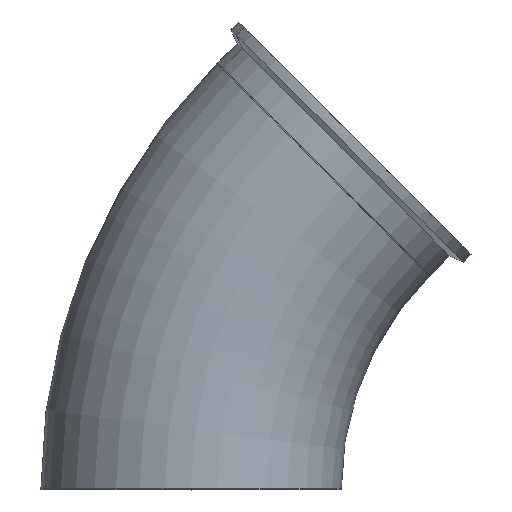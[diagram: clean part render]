
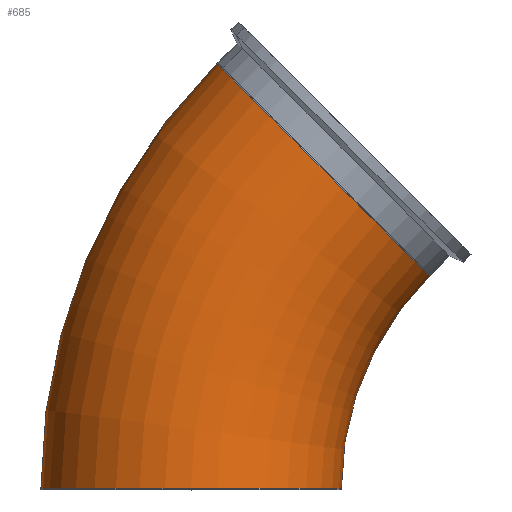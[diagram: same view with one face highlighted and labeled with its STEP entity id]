
A CAD part, top view. The second image highlights one B-rep face of the part: STEP entity #685.
In plain terms, the highlighted toroidal (fillet/blend) face has major radius 228.6 mm and minor radius 76.2 mm.
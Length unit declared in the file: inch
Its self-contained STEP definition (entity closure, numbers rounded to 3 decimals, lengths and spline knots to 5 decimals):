
#19 = AXIS2_PLACEMENT_3D ( 'NONE', #933, #511, #66 ) ;
#21 = ORIENTED_EDGE ( 'NONE', *, *, #670, .T. ) ;
#36 = AXIS2_PLACEMENT_3D ( 'NONE', #352, #867, #432 ) ;
#66 = DIRECTION ( 'NONE',  ( 0., 0., 1. ) ) ;
#84 = AXIS2_PLACEMENT_3D ( 'NONE', #762, #889, #532 ) ;
#88 = AXIS2_PLACEMENT_3D ( 'NONE', #299, #823, #378 ) ;
#96 = AXIS2_PLACEMENT_3D ( 'NONE', #294, #820, #376 ) ;
#129 = CARTESIAN_POINT ( 'NONE',  ( 7.88304, 6.40524, 8.13878 ) ) ;
#163 = AXIS2_PLACEMENT_3D ( 'NONE', #395, #906, #474 ) ;
#205 = EDGE_LOOP ( 'NONE', ( #338, #390, #21, #801, #939 ) ) ;
#231 = VERTEX_POINT ( 'NONE', #129 ) ;
#234 = CIRCLE ( 'NONE', #19, 3. ) ;
#294 = CARTESIAN_POINT ( 'NONE',  ( 12.12568, 2.1626, 8.13878 ) ) ;
#299 = CARTESIAN_POINT ( 'NONE',  ( 3.12568, 2.1626, 8.13878 ) ) ;
#336 = FACE_OUTER_BOUND ( 'NONE', #205, .T. ) ;
#338 = ORIENTED_EDGE ( 'NONE', *, *, #752, .F. ) ;
#352 = CARTESIAN_POINT ( 'NONE',  ( 12.12568, 2.1626, 8.13878 ) ) ;
#376 = DIRECTION ( 'NONE',  ( -1., 0., 0. ) ) ;
#378 = DIRECTION ( 'NONE',  ( 0., 0., 1. ) ) ;
#390 = ORIENTED_EDGE ( 'NONE', *, *, #551, .T. ) ;
#395 = CARTESIAN_POINT ( 'NONE',  ( 3.12568, 2.1626, 8.13878 ) ) ;
#398 = CARTESIAN_POINT ( 'NONE',  ( 0.12568, 2.1626, 8.13878 ) ) ;
#402 = CARTESIAN_POINT ( 'NONE',  ( 3.6404, 10.64788, 8.13878 ) ) ;
#432 = DIRECTION ( 'NONE',  ( -1., 0., 0. ) ) ;
#468 = CIRCLE ( 'NONE', #36, 12. ) ;
#474 = DIRECTION ( 'NONE',  ( 0., 0., 1. ) ) ;
#511 = DIRECTION ( 'NONE',  ( 0.707, 0.707, 0. ) ) ;
#527 = CIRCLE ( 'NONE', #163, 3. ) ;
#532 = DIRECTION ( 'NONE',  ( -1., 0., 0. ) ) ;
#537 = VERTEX_POINT ( 'NONE', #789 ) ;
#551 = EDGE_CURVE ( 'NONE', #617, #850, #527, .T. ) ;
#617 = VERTEX_POINT ( 'NONE', #398 ) ;
#647 = EDGE_CURVE ( 'NONE', #537, #231, #768, .T. ) ;
#670 = EDGE_CURVE ( 'NONE', #850, #537, #918, .T. ) ;
#685 = ADVANCED_FACE ( 'NONE', ( #336 ), #751, .T. ) ;
#751 = TOROIDAL_SURFACE ( 'NONE', #84, 9., 3. ) ;
#752 = EDGE_CURVE ( 'NONE', #617, #882, #468, .T. ) ;
#762 = CARTESIAN_POINT ( 'NONE',  ( 12.12568, 2.1626, 8.13878 ) ) ;
#763 = EDGE_CURVE ( 'NONE', #882, #231, #234, .T. ) ;
#768 = CIRCLE ( 'NONE', #96, 6. ) ;
#789 = CARTESIAN_POINT ( 'NONE',  ( 6.12568, 2.1626, 8.13878 ) ) ;
#801 = ORIENTED_EDGE ( 'NONE', *, *, #647, .T. ) ;
#820 = DIRECTION ( 'NONE',  ( 0., 0., -1. ) ) ;
#823 = DIRECTION ( 'NONE',  ( 0., 1., 0. ) ) ;
#842 = CARTESIAN_POINT ( 'NONE',  ( 3.12568, 2.1626, 11.13878 ) ) ;
#850 = VERTEX_POINT ( 'NONE', #842 ) ;
#867 = DIRECTION ( 'NONE',  ( 0., 0., -1. ) ) ;
#882 = VERTEX_POINT ( 'NONE', #402 ) ;
#889 = DIRECTION ( 'NONE',  ( 0., 0., -1. ) ) ;
#906 = DIRECTION ( 'NONE',  ( 0., 1., 0. ) ) ;
#918 = CIRCLE ( 'NONE', #88, 3. ) ;
#933 = CARTESIAN_POINT ( 'NONE',  ( 5.76172, 8.52656, 8.13878 ) ) ;
#939 = ORIENTED_EDGE ( 'NONE', *, *, #763, .F. ) ;
